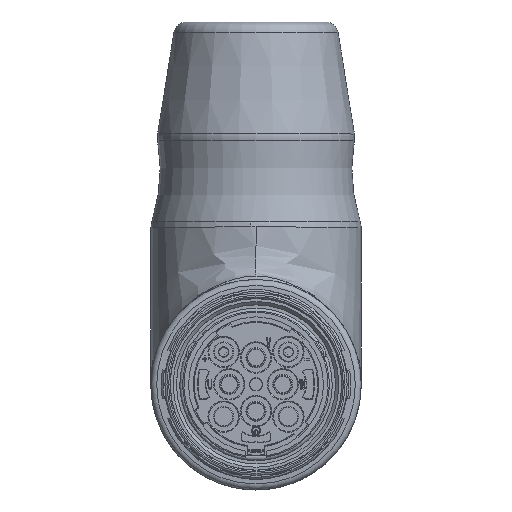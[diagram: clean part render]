
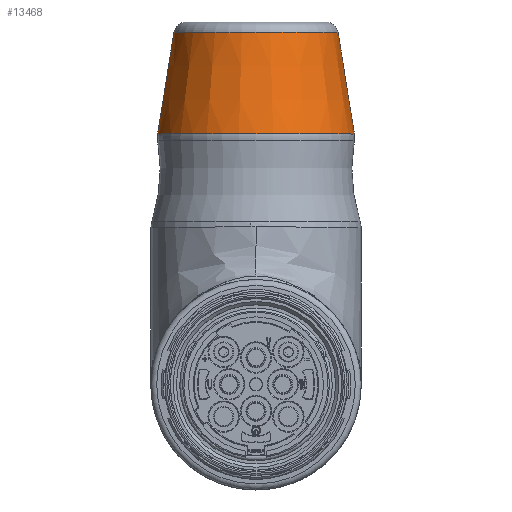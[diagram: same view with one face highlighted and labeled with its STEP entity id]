
A CAD part, top view. The second image highlights one B-rep face of the part: STEP entity #13468.
In plain terms, the highlighted conical face has half-angle 9.13 degrees and reference radius 19.906 mm.
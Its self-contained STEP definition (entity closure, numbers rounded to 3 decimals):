
#293=CONICAL_SURFACE('',#14619,19.906,9.13);
#549=FACE_BOUND('',#2894,.T.);
#956=CIRCLE('',#14618,19.906);
#957=CIRCLE('',#14620,23.862);
#2029=FACE_OUTER_BOUND('',#2893,.T.);
#2893=EDGE_LOOP('',(#10874));
#2894=EDGE_LOOP('',(#10875));
#5837=VERTEX_POINT('',#40745);
#5838=VERTEX_POINT('',#40748);
#7572=EDGE_CURVE('',#5837,#5837,#956,.T.);
#7573=EDGE_CURVE('',#5838,#5838,#957,.T.);
#10874=ORIENTED_EDGE('',*,*,#7572,.T.);
#10875=ORIENTED_EDGE('',*,*,#7573,.T.);
#13468=ADVANCED_FACE('',(#2029,#549),#293,.T.);
#14618=AXIS2_PLACEMENT_3D('',#40746,#17662,#17663);
#14619=AXIS2_PLACEMENT_3D('',#40747,#17664,#17665);
#14620=AXIS2_PLACEMENT_3D('',#40749,#17666,#17667);
#17662=DIRECTION('center_axis',(0.,-1.,0.));
#17663=DIRECTION('ref_axis',(-1.,0.,0.));
#17664=DIRECTION('center_axis',(0.,-1.,0.));
#17665=DIRECTION('ref_axis',(-1.,0.,0.));
#17666=DIRECTION('center_axis',(0.,1.,0.));
#17667=DIRECTION('ref_axis',(1.,0.,0.));
#40745=CARTESIAN_POINT('',(-19.906,85.476,-76.1));
#40746=CARTESIAN_POINT('Origin',(0.,85.476,
-76.1));
#40747=CARTESIAN_POINT('Origin',(0.,85.476,
-76.1));
#40748=CARTESIAN_POINT('',(23.862,60.857,-76.1));
#40749=CARTESIAN_POINT('Origin',(0.,60.857,
-76.1));
